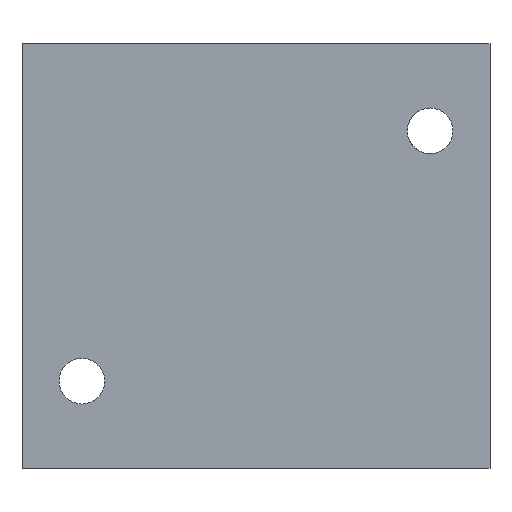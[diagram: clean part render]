
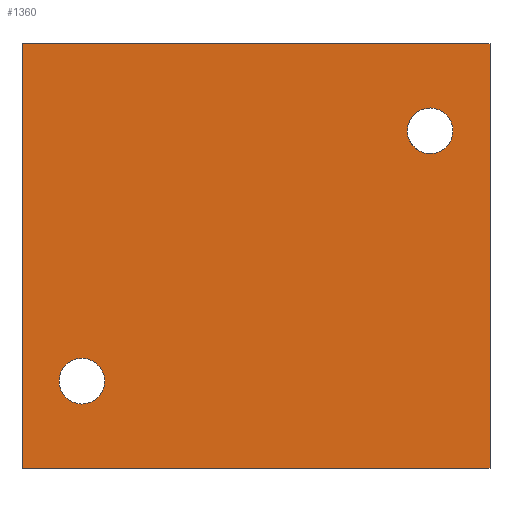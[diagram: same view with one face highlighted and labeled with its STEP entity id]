
A CAD part, front view. The second image highlights one B-rep face of the part: STEP entity #1360.
In plain terms, the highlighted planar face has unit normal (0, -1, 0).
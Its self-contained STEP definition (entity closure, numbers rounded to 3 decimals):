
#96 = ORIENTED_EDGE ( 'NONE', *, *, #179, .F. ) ;
#131 = ORIENTED_EDGE ( 'NONE', *, *, #1041, .F. ) ;
#140 = EDGE_LOOP ( 'NONE', ( #1604, #1561, #1727, #428 ) ) ;
#179 = EDGE_CURVE ( 'NONE', #1640, #319, #673, .T. ) ;
#190 = DIRECTION ( 'NONE',  ( 0., 0., 1. ) ) ;
#199 = EDGE_CURVE ( 'NONE', #2054, #1247, #433, .T. ) ;
#204 = LINE ( 'NONE', #1517, #1272 ) ;
#294 = CARTESIAN_POINT ( 'NONE',  ( -16., -14., -11.5 ) ) ;
#319 = VERTEX_POINT ( 'NONE', #1822 ) ;
#326 = DIRECTION ( 'NONE',  ( 0., 0., -1. ) ) ;
#359 = FACE_OUTER_BOUND ( 'NONE', #140, .T. ) ;
#368 = DIRECTION ( 'NONE',  ( 0., 1., 0. ) ) ;
#369 = VECTOR ( 'NONE', #326, 1000. ) ;
#428 = ORIENTED_EDGE ( 'NONE', *, *, #199, .T. ) ;
#433 = LINE ( 'NONE', #1935, #1787 ) ;
#449 = CIRCLE ( 'NONE', #707, 2.1 ) ;
#451 = CARTESIAN_POINT ( 'NONE',  ( 21.5, -14., 19.5 ) ) ;
#466 = DIRECTION ( 'NONE',  ( 0., 0., -1. ) ) ;
#473 = DIRECTION ( 'NONE',  ( 0., -1., 0. ) ) ;
#478 = AXIS2_PLACEMENT_3D ( 'NONE', #1409, #1723, #786 ) ;
#485 = EDGE_CURVE ( 'NONE', #2054, #789, #204, .T. ) ;
#490 = CARTESIAN_POINT ( 'NONE',  ( -21.5, -14., -19.5 ) ) ;
#508 = CARTESIAN_POINT ( 'NONE',  ( -21.5, -14., 19.5 ) ) ;
#513 = AXIS2_PLACEMENT_3D ( 'NONE', #1772, #1601, #778 ) ;
#534 = VERTEX_POINT ( 'NONE', #1231 ) ;
#573 = EDGE_LOOP ( 'NONE', ( #1004, #1271 ) ) ;
#673 = CIRCLE ( 'NONE', #478, 2.1 ) ;
#707 = AXIS2_PLACEMENT_3D ( 'NONE', #294, #1234, #1219 ) ;
#775 = DIRECTION ( 'NONE',  ( 1., 0., 0. ) ) ;
#778 = DIRECTION ( 'NONE',  ( 0., 0., -1. ) ) ;
#781 = VERTEX_POINT ( 'NONE', #1927 ) ;
#786 = DIRECTION ( 'NONE',  ( 0., 0., -1. ) ) ;
#789 = VERTEX_POINT ( 'NONE', #1071 ) ;
#820 = EDGE_CURVE ( 'NONE', #534, #1279, #1672, .T. ) ;
#846 = AXIS2_PLACEMENT_3D ( 'NONE', #1287, #473, #1123 ) ;
#876 = FACE_BOUND ( 'NONE', #1193, .T. ) ;
#925 = EDGE_CURVE ( 'NONE', #1279, #534, #1582, .T. ) ;
#984 = EDGE_CURVE ( 'NONE', #789, #781, #2080, .T. ) ;
#1004 = ORIENTED_EDGE ( 'NONE', *, *, #925, .F. ) ;
#1014 = CARTESIAN_POINT ( 'NONE',  ( 16., -14., 9.4 ) ) ;
#1041 = EDGE_CURVE ( 'NONE', #319, #1640, #449, .T. ) ;
#1071 = CARTESIAN_POINT ( 'NONE',  ( 21.5, -14., 19.5 ) ) ;
#1123 = DIRECTION ( 'NONE',  ( 0., 0., -1. ) ) ;
#1193 = EDGE_LOOP ( 'NONE', ( #96, #131 ) ) ;
#1219 = DIRECTION ( 'NONE',  ( 0., 0., -1. ) ) ;
#1231 = CARTESIAN_POINT ( 'NONE',  ( 16., -14., 13.6 ) ) ;
#1234 = DIRECTION ( 'NONE',  ( 0., -1., 0. ) ) ;
#1247 = VERTEX_POINT ( 'NONE', #490 ) ;
#1271 = ORIENTED_EDGE ( 'NONE', *, *, #820, .F. ) ;
#1272 = VECTOR ( 'NONE', #1355, 1000. ) ;
#1279 = VERTEX_POINT ( 'NONE', #1014 ) ;
#1287 = CARTESIAN_POINT ( 'NONE',  ( 16., -14., 11.5 ) ) ;
#1355 = DIRECTION ( 'NONE',  ( 1., 0., 0. ) ) ;
#1360 = ADVANCED_FACE ( 'NONE', ( #359, #876, #1666 ), #1995, .F. ) ;
#1409 = CARTESIAN_POINT ( 'NONE',  ( -16., -14., -11.5 ) ) ;
#1517 = CARTESIAN_POINT ( 'NONE',  ( -21.5, -14., 19.5 ) ) ;
#1561 = ORIENTED_EDGE ( 'NONE', *, *, #984, .F. ) ;
#1582 = CIRCLE ( 'NONE', #846, 2.1 ) ;
#1601 = DIRECTION ( 'NONE',  ( 0., -1., 0. ) ) ;
#1604 = ORIENTED_EDGE ( 'NONE', *, *, #2055, .T. ) ;
#1640 = VERTEX_POINT ( 'NONE', #2090 ) ;
#1666 = FACE_BOUND ( 'NONE', #573, .T. ) ;
#1672 = CIRCLE ( 'NONE', #513, 2.1 ) ;
#1723 = DIRECTION ( 'NONE',  ( 0., -1., 0. ) ) ;
#1727 = ORIENTED_EDGE ( 'NONE', *, *, #485, .F. ) ;
#1731 = AXIS2_PLACEMENT_3D ( 'NONE', #508, #368, #190 ) ;
#1765 = VECTOR ( 'NONE', #775, 1000. ) ;
#1768 = LINE ( 'NONE', #2068, #1765 ) ;
#1772 = CARTESIAN_POINT ( 'NONE',  ( 16., -14., 11.5 ) ) ;
#1787 = VECTOR ( 'NONE', #466, 1000. ) ;
#1822 = CARTESIAN_POINT ( 'NONE',  ( -16., -14., -9.4 ) ) ;
#1927 = CARTESIAN_POINT ( 'NONE',  ( 21.5, -14., -19.5 ) ) ;
#1935 = CARTESIAN_POINT ( 'NONE',  ( -21.5, -14., 19.5 ) ) ;
#1995 = PLANE ( 'NONE',  #1731 ) ;
#2054 = VERTEX_POINT ( 'NONE', #2081 ) ;
#2055 = EDGE_CURVE ( 'NONE', #1247, #781, #1768, .T. ) ;
#2068 = CARTESIAN_POINT ( 'NONE',  ( -21.5, -14., -19.5 ) ) ;
#2080 = LINE ( 'NONE', #451, #369 ) ;
#2081 = CARTESIAN_POINT ( 'NONE',  ( -21.5, -14., 19.5 ) ) ;
#2090 = CARTESIAN_POINT ( 'NONE',  ( -16., -14., -13.6 ) ) ;
